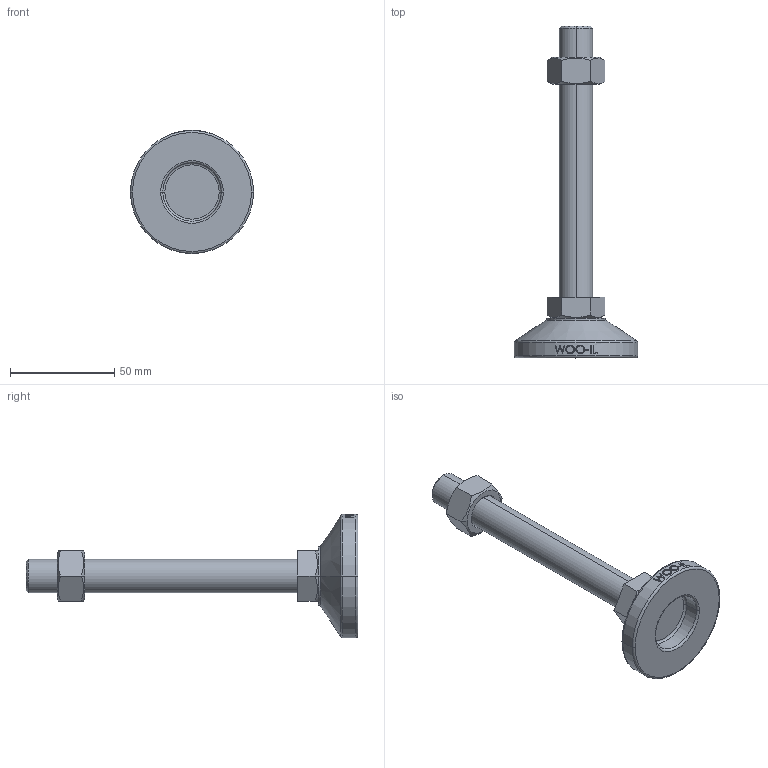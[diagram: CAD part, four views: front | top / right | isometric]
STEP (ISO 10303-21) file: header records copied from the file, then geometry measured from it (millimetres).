
FILE_DESCRIPTION (( 'STEP AP214' ), '1' );
FILE_NAME ('MF59-M16-130.step', '2021-02-03T08:17:56', ( '' ), ( '' ), 'SwSTEP 2.0', 'SolidWorks 2019', '' );
FILE_SCHEMA (( 'AUTOMOTIVE_DESIGN' ));
Length unit declared in the file: millimetre
Products named in the file (2): MF59-M16-130
Bounding box: 59 x 159 x 59 mm (x, y, z)
Volume: 67832.4 mm3; surface area: 18544.4 mm2
Topology: 3 solids, 3 shells, 106 faces, 243 edges, 154 vertices
Faces by surface type: plane 48, cylinder 18, bspline 16, cone 14, torus 10
Entity records: 4448 total; most frequent: CARTESIAN_POINT 2105, ORIENTED_EDGE 486, DIRECTION 439, EDGE_CURVE 243, AXIS2_PLACEMENT_3D 170, VERTEX_POINT 154, EDGE_LOOP 119, FACE_OUTER_BOUND 106
